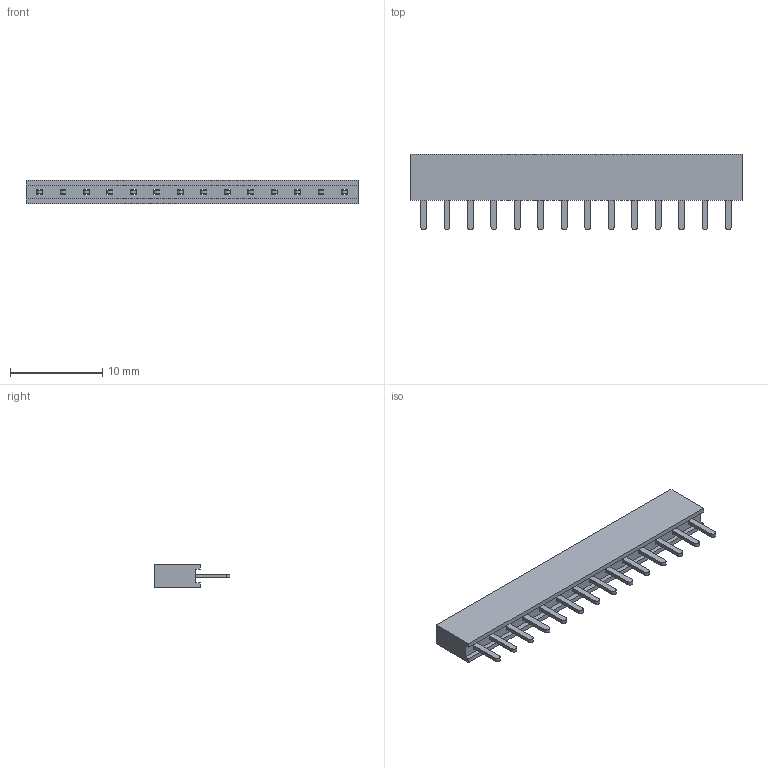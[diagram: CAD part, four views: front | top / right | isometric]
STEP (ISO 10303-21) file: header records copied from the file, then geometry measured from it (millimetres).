
FILE_DESCRIPTION (( 'STEP AP214' ), '1' );
FILE_NAME ('PM254-1-14-Z-5.0-XX(L8.2) (2.54 单排 排母 直针 塑高5.0-HCTL).STEP', '2024-11-25T01:04:27', ( '' ), ( '' ), 'SwSTEP 2.0', 'SolidWorks 2022', '' );
FILE_SCHEMA (( 'AUTOMOTIVE_DESIGN' ));
Length unit declared in the file: millimetre
Products named in the file (1): PM254-1-14-Z-5.0-XX(L8.2) (2.54 单排 排母 直针 塑高5.0-HCTL)
Bounding box: 35.96 x 8.2 x 2.5 mm (x, y, z)
Volume: 405.9 mm3; surface area: 864.7 mm2
Topology: 1 solids, 1 shells, 206 faces, 584 edges, 352 vertices
Faces by surface type: plane 192, cylinder 14
Entity records: 6566 total; most frequent: ORIENTED_EDGE 1168, CARTESIAN_POINT 1143, DIRECTION 1026, EDGE_CURVE 584, LINE 556, VECTOR 556, VERTEX_POINT 352, AXIS2_PLACEMENT_3D 235
